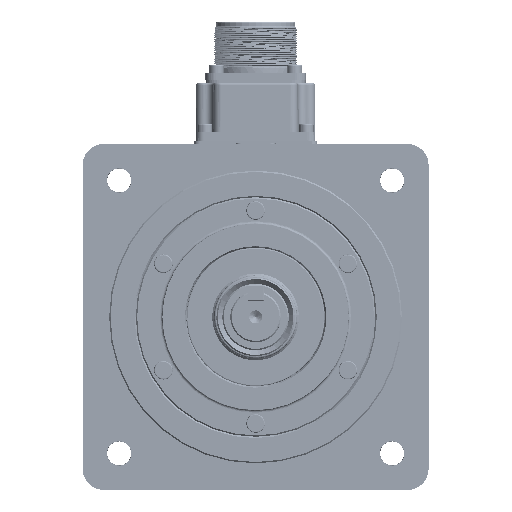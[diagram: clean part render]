
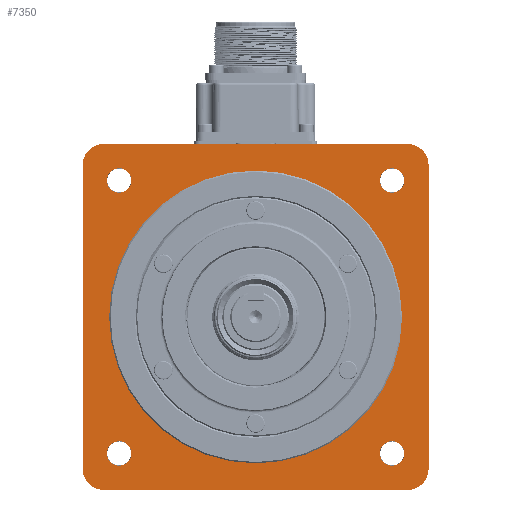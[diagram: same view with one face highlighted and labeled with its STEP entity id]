
A CAD part, front view. The second image highlights one B-rep face of the part: STEP entity #7350.
In plain terms, the highlighted planar face has unit normal (0, -1, 0).
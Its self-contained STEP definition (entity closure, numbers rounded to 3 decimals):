
#7350 = ADVANCED_FACE( '', ( #15576, #15577, #15578, #15579, #15580, #15581 ), #15582, .F. );
#15576 = FACE_BOUND( '', #37724, .T. );
#15577 = FACE_OUTER_BOUND( '', #37725, .T. );
#15578 = FACE_BOUND( '', #37726, .T. );
#15579 = FACE_BOUND( '', #37727, .T. );
#15580 = FACE_BOUND( '', #37728, .T. );
#15581 = FACE_BOUND( '', #37729, .T. );
#15582 = PLANE( '', #37730 );
#37724 = EDGE_LOOP( '', ( #60087 ) );
#37725 = EDGE_LOOP( '', ( #60088, #60089, #60090, #60091, #60092, #60093, #60094, #60095 ) );
#37726 = EDGE_LOOP( '', ( #60096 ) );
#37727 = EDGE_LOOP( '', ( #60097 ) );
#37728 = EDGE_LOOP( '', ( #60098 ) );
#37729 = EDGE_LOOP( '', ( #60099 ) );
#37730 = AXIS2_PLACEMENT_3D( '', #60100, #60101, #60102 );
#60087 = ORIENTED_EDGE( '', *, *, #69889, .F. );
#60088 = ORIENTED_EDGE( '', *, *, #64751, .F. );
#60089 = ORIENTED_EDGE( '', *, *, #69952, .T. );
#60090 = ORIENTED_EDGE( '', *, *, #69705, .F. );
#60091 = ORIENTED_EDGE( '', *, *, #69953, .T. );
#60092 = ORIENTED_EDGE( '', *, *, #69520, .F. );
#60093 = ORIENTED_EDGE( '', *, *, #69954, .T. );
#60094 = ORIENTED_EDGE( '', *, *, #69321, .F. );
#60095 = ORIENTED_EDGE( '', *, *, #69955, .T. );
#60096 = ORIENTED_EDGE( '', *, *, #63538, .F. );
#60097 = ORIENTED_EDGE( '', *, *, #63964, .F. );
#60098 = ORIENTED_EDGE( '', *, *, #67807, .F. );
#60099 = ORIENTED_EDGE( '', *, *, #65004, .F. );
#60100 = CARTESIAN_POINT( '', ( 0., -32.9, 55. ) );
#60101 = DIRECTION( '', ( 0., 1., 0. ) );
#60102 = DIRECTION( '', ( 0., 0., 1. ) );
#63538 = EDGE_CURVE( '', #74189, #74189, #74190, .F. );
#63964 = EDGE_CURVE( '', #74897, #74897, #74898, .F. );
#64751 = EDGE_CURVE( '', #76175, #76177, #76178, .F. );
#65004 = EDGE_CURVE( '', #76580, #76580, #76581, .F. );
#67807 = EDGE_CURVE( '', #80670, #80670, #80671, .F. );
#69321 = EDGE_CURVE( '', #82510, #82512, #82513, .F. );
#69520 = EDGE_CURVE( '', #82751, #82753, #82754, .F. );
#69705 = EDGE_CURVE( '', #82957, #82959, #82960, .F. );
#69889 = EDGE_CURVE( '', #83153, #83153, #83154, .T. );
#69952 = EDGE_CURVE( '', #76175, #82959, #83219, .T. );
#69953 = EDGE_CURVE( '', #82957, #82753, #83220, .T. );
#69954 = EDGE_CURVE( '', #82751, #82512, #83221, .T. );
#69955 = EDGE_CURVE( '', #82510, #76177, #83222, .T. );
#74189 = VERTEX_POINT( '', #92567 );
#74190 = CIRCLE( '', #92568, 4.6 );
#74897 = VERTEX_POINT( '', #95559 );
#74898 = CIRCLE( '', #95560, 4.6 );
#76175 = VERTEX_POINT( '', #98048 );
#76177 = VERTEX_POINT( '', #98051 );
#76178 = CIRCLE( '', #98052, 8. );
#76580 = VERTEX_POINT( '', #98689 );
#76581 = CIRCLE( '', #98690, 4.6 );
#80670 = VERTEX_POINT( '', #109239 );
#80671 = CIRCLE( '', #109240, 4.6 );
#82510 = VERTEX_POINT( '', #113122 );
#82512 = VERTEX_POINT( '', #113125 );
#82513 = CIRCLE( '', #113126, 8. );
#82751 = VERTEX_POINT( '', #113496 );
#82753 = VERTEX_POINT( '', #113499 );
#82754 = CIRCLE( '', #113500, 8. );
#82957 = VERTEX_POINT( '', #113899 );
#82959 = VERTEX_POINT( '', #113902 );
#82960 = CIRCLE( '', #113903, 8. );
#83153 = VERTEX_POINT( '', #114160 );
#83154 = CIRCLE( '', #114161, 55. );
#83219 = LINE( '', #114234, #114235 );
#83220 = LINE( '', #114236, #114237 );
#83221 = LINE( '', #114238, #114239 );
#83222 = LINE( '', #114240, #114241 );
#92567 = CARTESIAN_POINT( '', ( -51.265, -32.9, 55.866 ) );
#92568 = AXIS2_PLACEMENT_3D( '', #117701, #117702, #117703 );
#95559 = CARTESIAN_POINT( '', ( -51.265, -32.9, -46.665 ) );
#95560 = AXIS2_PLACEMENT_3D( '', #118179, #118180, #118181 );
#98048 = CARTESIAN_POINT( '', ( -65., -32.9, 57. ) );
#98051 = CARTESIAN_POINT( '', ( -57., -32.9, 65. ) );
#98052 = AXIS2_PLACEMENT_3D( '', #119114, #119115, #119116 );
#98689 = CARTESIAN_POINT( '', ( 51.265, -32.9, 55.866 ) );
#98690 = AXIS2_PLACEMENT_3D( '', #119460, #119461, #119462 );
#109239 = CARTESIAN_POINT( '', ( 51.265, -32.9, -46.665 ) );
#109240 = AXIS2_PLACEMENT_3D( '', #122194, #122195, #122196 );
#113122 = CARTESIAN_POINT( '', ( 57., -32.9, 65. ) );
#113125 = CARTESIAN_POINT( '', ( 65., -32.9, 57. ) );
#113126 = AXIS2_PLACEMENT_3D( '', #123421, #123422, #123423 );
#113496 = CARTESIAN_POINT( '', ( 65., -32.9, -57. ) );
#113499 = CARTESIAN_POINT( '', ( 57., -32.9, -65. ) );
#113500 = AXIS2_PLACEMENT_3D( '', #123581, #123582, #123583 );
#113899 = CARTESIAN_POINT( '', ( -57., -32.9, -65. ) );
#113902 = CARTESIAN_POINT( '', ( -65., -32.9, -57. ) );
#113903 = AXIS2_PLACEMENT_3D( '', #123682, #123683, #123684 );
#114160 = CARTESIAN_POINT( '', ( 0., -32.9, -55. ) );
#114161 = AXIS2_PLACEMENT_3D( '', #123761, #123762, #123763 );
#114234 = CARTESIAN_POINT( '', ( -65., -32.9, 65. ) );
#114235 = VECTOR( '', #123781, 1000. );
#114236 = CARTESIAN_POINT( '', ( -65., -32.9, -65. ) );
#114237 = VECTOR( '', #123782, 1000. );
#114238 = CARTESIAN_POINT( '', ( 65., -32.9, -65. ) );
#114239 = VECTOR( '', #123783, 1000. );
#114240 = CARTESIAN_POINT( '', ( 65., -32.9, 65. ) );
#114241 = VECTOR( '', #123784, 1000. );
#117701 = CARTESIAN_POINT( '', ( -51.265, -32.9, 51.265 ) );
#117702 = DIRECTION( '', ( 0., 1., 0. ) );
#117703 = DIRECTION( '', ( 0., 0., 1. ) );
#118179 = CARTESIAN_POINT( '', ( -51.265, -32.9, -51.265 ) );
#118180 = DIRECTION( '', ( 0., 1., 0. ) );
#118181 = DIRECTION( '', ( 0., 0., 1. ) );
#119114 = CARTESIAN_POINT( '', ( -57., -32.9, 57. ) );
#119115 = DIRECTION( '', ( 0., -1., 0. ) );
#119116 = DIRECTION( '', ( 0., 0., -1. ) );
#119460 = CARTESIAN_POINT( '', ( 51.265, -32.9, 51.265 ) );
#119461 = DIRECTION( '', ( 0., 1., 0. ) );
#119462 = DIRECTION( '', ( 0., 0., 1. ) );
#122194 = CARTESIAN_POINT( '', ( 51.265, -32.9, -51.265 ) );
#122195 = DIRECTION( '', ( 0., 1., 0. ) );
#122196 = DIRECTION( '', ( 0., 0., 1. ) );
#123421 = CARTESIAN_POINT( '', ( 57., -32.9, 57. ) );
#123422 = DIRECTION( '', ( 0., -1., 0. ) );
#123423 = DIRECTION( '', ( 0., 0., -1. ) );
#123581 = CARTESIAN_POINT( '', ( 57., -32.9, -57. ) );
#123582 = DIRECTION( '', ( 0., -1., 0. ) );
#123583 = DIRECTION( '', ( 0., 0., -1. ) );
#123682 = CARTESIAN_POINT( '', ( -57., -32.9, -57. ) );
#123683 = DIRECTION( '', ( 0., -1., 0. ) );
#123684 = DIRECTION( '', ( 0., 0., -1. ) );
#123761 = CARTESIAN_POINT( '', ( 0., -32.9, 0. ) );
#123762 = DIRECTION( '', ( 0., -1., 0. ) );
#123763 = DIRECTION( '', ( 0., 0., -1. ) );
#123781 = DIRECTION( '', ( 0., 0., -1. ) );
#123782 = DIRECTION( '', ( 1., 0., 0. ) );
#123783 = DIRECTION( '', ( 0., 0., 1. ) );
#123784 = DIRECTION( '', ( -1., 0., 0. ) );
